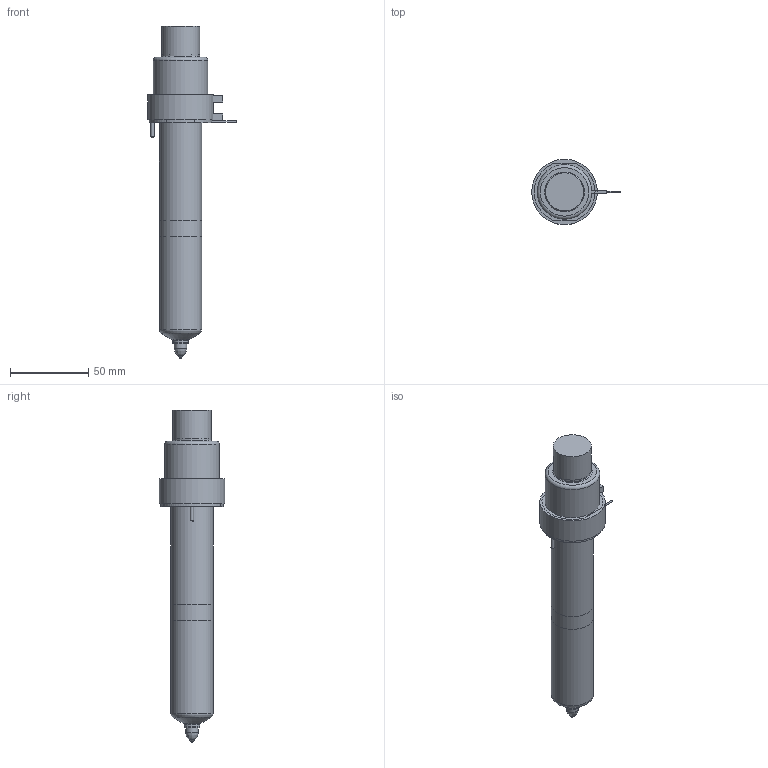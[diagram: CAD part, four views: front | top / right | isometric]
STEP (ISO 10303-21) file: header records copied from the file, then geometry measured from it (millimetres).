
FILE_DESCRIPTION(/* description */ (''),/* implementation_level */ '2;1');
FILE_NAME(/* name */ 'SXTT-SXIT13145-5_200C_b',/* time_stamp */ '2007-01-24T17:21:27+13:00',/* author */ (''),/* organization */ (''),/* preprocessor_version */ 'ST-DEVELOPER v9',/* originating_system */ 'UGS - NX 4.0',/* authorisation */ '');
FILE_SCHEMA (('CONFIG_CONTROL_DESIGN'));
Length unit declared in the file: millimetre
Products named in the file (1): SXTT-SXIT13145-5_200C_b
Bounding box: 56.65 x 42 x 212.6 mm (x, y, z)
Volume: 234445.1 mm3; surface area: 41316.2 mm2
Topology: 7 solids, 7 shells, 99 faces, 192 edges, 121 vertices
Faces by surface type: plane 45, cylinder 30, cone 12, torus 10, bspline 2
Full cylindrical faces by diameter (mm): 0.9 x1, 1 x3, 2 x2, 5.5 x1, 6 x1, 8 x1, 9.61 x1, 10.01 x2, 12.6 x1, 22.2 x1, 24 x1, 24.4 x1, 27 x2, 31.8 x1, 35 x1, 40 x1, 42 x1
Entity records: 2413 total; most frequent: CARTESIAN_POINT 486, DIRECTION 408, ORIENTED_EDGE 282, AXIS2_PLACEMENT_3D 179, EDGE_LOOP 156, EDGE_CURVE 141, VERTEX_POINT 114, ADVANCED_FACE 99
